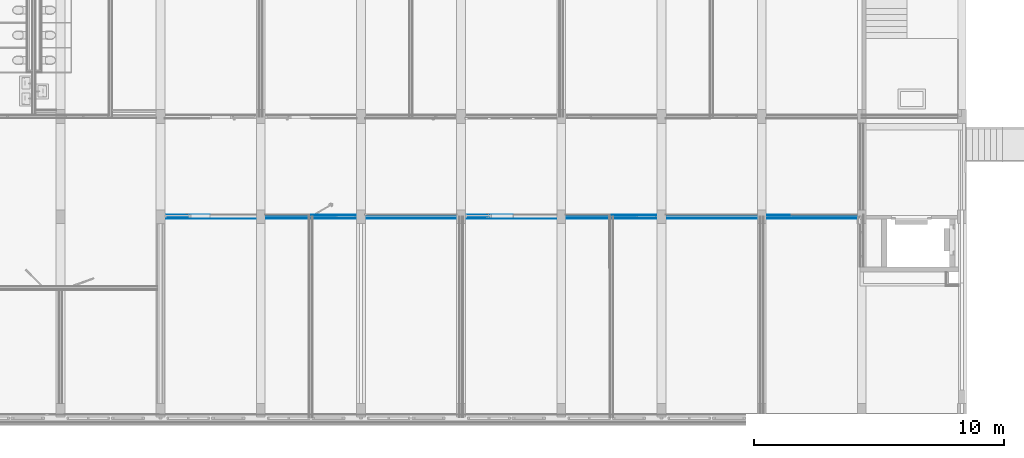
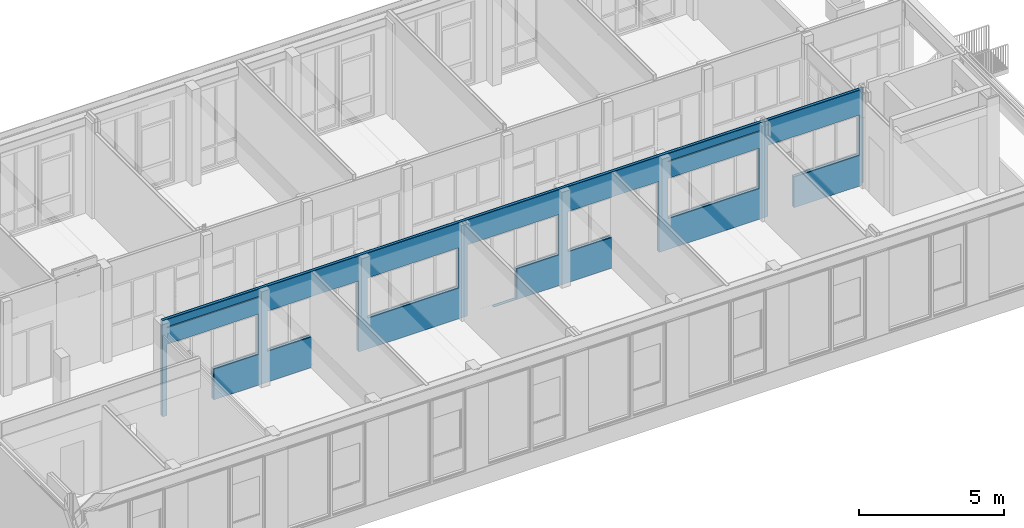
# One storey, part 31 of 54: 5 building element parts, 9 openings, 1 element without a shape of its own.
"""IFC2X3 building model written with IfcOpenShell, lengths in millimetres."""

from ifc_helpers import new_model, entity, si_unit, converted_unit, derived_unit, money_unit, direction, frame, origin_with_axes, place, context, subcontext, project, spatial, faceted_brep, material, type_object, element, aggregate, save


model = new_model("IFC2X3")

# Units and contexts
model_context = context("Model", 3, precision=0.01, world=origin_with_axes(), true_north=direction((0.0, 1.0)))
body_context = subcontext(model_context, "Body", "Model", "MODEL_VIEW")
ifc_project = project(units=[si_unit("LENGTHUNIT", "METRE", prefix="MILLI"), si_unit("AREAUNIT", "SQUARE_METRE"), si_unit("VOLUMEUNIT", "CUBIC_METRE"), converted_unit("PLANEANGLEUNIT", "DEGREE", entity("IfcPlaneAngleMeasure", 0.0174532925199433), si_unit("PLANEANGLEUNIT", "RADIAN"), dimensions=[0, 0, 0, 0, 0, 0, 0]), money_unit("EUR"), converted_unit("TIMEUNIT", "Year", entity("IfcTimeMeasure", 31557600.0), si_unit("TIMEUNIT", "SECOND"), dimensions=[0, 0, 1, 0, 0, 0, 0]), si_unit("MASSUNIT", "GRAM", prefix="KILO"), si_unit("THERMODYNAMICTEMPERATUREUNIT", "DEGREE_CELSIUS"), si_unit("LUMINOUSINTENSITYUNIT", "LUMEN"), si_unit("ENERGYUNIT", "JOULE", prefix="MEGA"), derived_unit("THERMALCONDUCTANCEUNIT", [(si_unit("POWERUNIT", "WATT"), 1), (si_unit("LENGTHUNIT", "METRE"), -1), (si_unit("THERMODYNAMICTEMPERATUREUNIT", "KELVIN"), -1)]), derived_unit("SPECIFICHEATCAPACITYUNIT", [(si_unit("ENERGYUNIT", "JOULE"), 1), (si_unit("MASSUNIT", "GRAM", prefix="KILO"), -1), (si_unit("THERMODYNAMICTEMPERATUREUNIT", "KELVIN"), -1)]), derived_unit("MASSDENSITYUNIT", [(si_unit("MASSUNIT", "GRAM", prefix="KILO"), 1), (si_unit("VOLUMEUNIT", "CUBIC_METRE"), -1)])], contexts=[model_context])

# Site, building, storey
site_placement = place(None, origin_with_axes())
site = spatial("IfcSite", under=ifc_project, at=site_placement, Name="<site naam>", CompositionType="ELEMENT")
building_placement = place(site_placement, origin_with_axes())
building = spatial("IfcBuilding", under=site, at=building_placement, Name="<Naam gebouw>", CompositionType="ELEMENT")
storey_placement = place(building_placement, frame((0.0, 0.0, 8500.0), z_axis=(0.0, 0.0, 1.0), x_axis=(1.0, 0.0, 0.0)))
storey = spatial("IfcBuildingStorey", under=building, at=storey_placement, Name="02 2e verdieping", CompositionType="ELEMENT", Elevation=8500.0)

# Wall, openings, building element parts
wall_type = type_object("IfcWallType", Name="MS-01 GF 150 ECO DGS/2.100.2.A 150", PredefinedType="NOTDEFINED")
wall_placement = place(storey_placement, frame((20000.00000000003, 8000.000000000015, 0.0), z_axis=(0.0, 0.0, 1.0), x_axis=(1.0, 0.0, 0.0)))
wall = element("IfcWall", 1, at=wall_placement, inside=storey, type_object=wall_type, Name="22_Binnenwand_MS-01")
opening_1_placement = place(wall_placement, frame((21999.96695173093, 0.0, 1300.000000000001), z_axis=(0.0, 0.0, 1.0), x_axis=(1.0, 0.0, 0.0)))
element("IfcOpeningElement", 2, at=opening_1_placement, cuts=wall, Name="22_BI-E-01_305", context=body_context, shape_type="Brep", body=[
    faceted_brep([(-1824.966951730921, -76.00000000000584, 1699.999999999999), (-1824.966951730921, -76.00000000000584, 0.0), (1824.966951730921, -76.00000000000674, 0.0), (1824.966951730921, -76.00000000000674, 1699.999999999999), (-1824.966951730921, 76.00000000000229, 1699.999999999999), (-1824.966951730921, 76.00000000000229, 0.0), (1824.966951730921, 76.00000000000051, 0.0), (1824.966951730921, 76.00000000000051, 1699.999999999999)], [[[0, 1, 2, 3]], [[4, 5, 1, 0]], [[5, 6, 2, 1]], [[6, 7, 3, 2]], [[7, 4, 0, 3]], [[6, 5, 4, 7]]]),
])
opening_2_placement = place(wall_placement, frame((2902.39464058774, 0.0, 1300.000000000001), z_axis=(0.0, 0.0, 1.0), x_axis=(1.0, 0.0, 0.0)))
element("IfcOpeningElement", 3, at=opening_2_placement, cuts=wall, Name="22_BI-E-01_305", context=body_context, shape_type="Brep", body=[
    faceted_brep([(-922.6053594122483, -76.00000000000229, 1699.999999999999), (-922.6053594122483, -76.00000000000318, 0.0), (922.6053594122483, -76.00000000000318, 0.0), (922.6053594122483, -76.00000000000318, 1699.999999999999), (-922.6053594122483, 76.00000000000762, 1699.999999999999), (-922.6053594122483, 76.00000000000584, 0.0), (922.6053594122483, 76.00000000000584, 0.0), (922.6053594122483, 76.00000000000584, 1699.999999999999)], [[[0, 1, 2, 3]], [[4, 5, 1, 0]], [[5, 6, 2, 1]], [[6, 7, 3, 2]], [[7, 4, 0, 3]], [[6, 5, 4, 7]]]),
])
opening_3_placement = place(wall_placement, frame((9999.966951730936, 0.0, 1300.000000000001), z_axis=(0.0, 0.0, 1.0), x_axis=(1.0, 0.0, 0.0)))
element("IfcOpeningElement", 4, at=opening_3_placement, cuts=wall, Name="22_BI-E-01_305", context=body_context, shape_type="Brep", body=[
    faceted_brep([(-1824.966951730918, -76.00000000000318, 1699.999999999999), (-1824.966951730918, -76.00000000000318, 0.0), (1824.966951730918, -76.00000000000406, 0.0), (1824.966951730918, -76.00000000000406, 1699.999999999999), (-1824.966951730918, 76.00000000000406, 1699.999999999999), (-1824.966951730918, 76.00000000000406, 0.0), (1824.966951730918, 76.00000000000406, 0.0), (1824.966951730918, 76.00000000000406, 1699.999999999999)], [[[0, 1, 2, 3]], [[4, 5, 1, 0]], [[5, 6, 2, 1]], [[6, 7, 3, 2]], [[7, 4, 0, 3]], [[6, 5, 4, 7]]]),
])
opening_4_placement = place(wall_placement, frame((13158.50000000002, 0.0, 3.000000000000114), z_axis=(0.0, 0.0, 1.0), x_axis=(1.0, 0.0, 0.0)))
element("IfcOpeningElement", 5, at=opening_4_placement, cuts=wall, Name="22_BI-E-02_305", context=body_context, shape_type="Brep", body=[
    faceted_brep([(-983.4999999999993, -76.00000000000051, 3000.0), (-983.4999999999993, -76.00000000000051, 0.0), (983.4999999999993, -76.00000000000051, 0.0), (983.4999999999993, -76.00000000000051, 3000.0), (-983.4999999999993, 75.99999999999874, 3000.0), (-983.4999999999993, 75.99999999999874, 0.0), (983.4999999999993, 75.99999999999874, 0.0), (983.4999999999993, 75.99999999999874, 3000.0)], [[[0, 1, 2, 3]], [[4, 5, 1, 0]], [[5, 6, 2, 1]], [[6, 7, 3, 2]], [[7, 4, 0, 3]], [[6, 5, 4, 7]]]),
])
opening_5_placement = place(wall_placement, frame((14953.39198492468, 0.0, 1300.000000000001), z_axis=(0.0, 0.0, 1.0), x_axis=(1.0, 0.0, 0.0)))
element("IfcOpeningElement", 6, at=opening_5_placement, cuts=wall, Name="22_BI-E-01_305", context=body_context, shape_type="Brep", body=[
    faceted_brep([(-871.6080150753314, -76.00000000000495, 1699.999999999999), (-871.6080150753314, -76.00000000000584, 0.0), (871.6080150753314, -76.00000000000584, 0.0), (871.6080150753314, -76.00000000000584, 1699.999999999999), (-871.6080150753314, 76.00000000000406, 1699.999999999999), (-871.6080150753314, 76.00000000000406, 0.0), (871.6080150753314, 76.00000000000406, 0.0), (871.6080150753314, 76.00000000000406, 1699.999999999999)], [[[0, 1, 2, 3]], [[4, 5, 1, 0]], [[5, 6, 2, 1]], [[6, 7, 3, 2]], [[7, 4, 0, 3]], [[6, 5, 4, 7]]]),
])
opening_6_placement = place(wall_placement, frame((18000.00000000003, 0.0, 0.0), z_axis=(0.0, 0.0, 1.0), x_axis=(1.0, 0.0, 0.0)))
element("IfcOpeningElement", 7, at=opening_6_placement, cuts=wall, Name="22_BI-E-03_305", context=body_context, shape_type="Brep", body=[
    faceted_brep([(-1825.000000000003, -76.00000000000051, 3000.0), (-1825.000000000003, -76.00000000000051, 1300.000000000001), (-58.86501235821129, -76.00000000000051, 1300.000000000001), (-58.86501235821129, -76.00000000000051, 0.0), (1825.000000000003, -76.00000000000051, 0.0), (1825.000000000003, -76.00000000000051, 3000.0), (-1825.000000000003, 75.99999999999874, 3000.0), (-1825.000000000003, 75.99999999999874, 1300.000000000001), (-58.86501235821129, 75.99999999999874, 1300.000000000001), (-58.86501235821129, 75.99999999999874, 0.0), (1825.000000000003, 75.99999999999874, 0.0), (1825.000000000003, 75.99999999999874, 3000.0)], [[[0, 1, 2, 3, 4, 5]], [[6, 7, 1, 0]], [[7, 8, 2, 1]], [[8, 9, 3, 2]], [[9, 10, 4, 3]], [[10, 11, 5, 4]], [[11, 6, 0, 5]], [[8, 7, 6, 11, 10, 9]]]),
])
opening_7_placement = place(wall_placement, frame((26000.00000000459, 0.0, 0.0), z_axis=(0.0, 0.0, 1.0), x_axis=(1.0, 0.0, 0.0)))
element("IfcOpeningElement", 8, at=opening_7_placement, cuts=wall, Name="22_BI-E-02_305", context=body_context, shape_type="Brep", body=[
    faceted_brep([(-1824.999999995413, -76.00000000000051, 3000.0), (-1824.999999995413, -76.00000000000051, 0.0), (-790.9999999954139, -76.00000000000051, 0.0), (-790.9999999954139, -76.00000000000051, 1300.000000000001), (1824.999999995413, -76.00000000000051, 1300.000000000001), (1824.999999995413, -76.00000000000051, 3000.0), (-1824.999999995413, 76.00000000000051, 3000.0), (-1824.999999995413, 76.00000000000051, 0.0), (-790.9999999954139, 76.00000000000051, 0.0), (-790.9999999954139, 76.00000000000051, 1300.000000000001), (1824.999999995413, 76.00000000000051, 1300.000000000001), (1824.999999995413, 76.00000000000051, 3000.0)], [[[0, 1, 2, 3, 4, 5]], [[6, 7, 1, 0]], [[7, 8, 2, 1]], [[8, 9, 3, 2]], [[9, 10, 4, 3]], [[10, 11, 5, 4]], [[11, 6, 0, 5]], [[8, 7, 6, 11, 10, 9]]]),
])
opening_8_placement = place(wall_placement, frame((6000.000000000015, 0.0, 0.0), z_axis=(0.0, 0.0, 1.0), x_axis=(1.0, 0.0, 0.0)))
element("IfcOpeningElement", 9, at=opening_8_placement, cuts=wall, Name="22_BI-E-03_305", context=body_context, shape_type="Brep", body=[
    faceted_brep([(-1825.000000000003, -76.00000000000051, 3000.0), (-1825.000000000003, -76.00000000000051, 1300.000000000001), (-58.86501235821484, -76.00000000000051, 1300.000000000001), (-58.86501235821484, -76.00000000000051, 0.0), (1825.000000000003, -76.00000000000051, 0.0), (1825.000000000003, -76.00000000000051, 3000.0), (-1825.000000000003, 75.99999999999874, 3000.0), (-1825.000000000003, 75.99999999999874, 1300.000000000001), (-58.86501235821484, 75.99999999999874, 1300.000000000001), (-58.86501235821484, 75.99999999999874, 0.0), (1825.000000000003, 75.99999999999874, 0.0), (1825.000000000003, 75.99999999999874, 3000.0)], [[[0, 1, 2, 3, 4, 5]], [[6, 7, 1, 0]], [[7, 8, 2, 1]], [[8, 9, 3, 2]], [[9, 10, 4, 3]], [[10, 11, 5, 4]], [[11, 6, 0, 5]], [[8, 7, 6, 11, 10, 9]]]),
])
opening_9_placement = place(wall_placement, frame((1108.500000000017, 0.0, 0.0), z_axis=(0.0, 0.0, 1.0), x_axis=(1.0, 0.0, 0.0)))
element("IfcOpeningElement", 10, at=opening_9_placement, cuts=wall, Name="22_BI-E-02_305", context=body_context, shape_type="Brep", body=[
    faceted_brep([(-933.4999999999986, -76.00000000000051, 3000.0), (-933.4999999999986, -76.00000000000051, 0.0), (933.4999999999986, -76.00000000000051, 0.0), (933.4999999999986, -76.00000000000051, 3000.0), (-933.4999999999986, 75.99999999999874, 3000.0), (-933.4999999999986, 75.99999999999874, 0.0), (933.4999999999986, 75.99999999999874, 0.0), (933.4999999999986, 75.99999999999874, 3000.0)], [[[0, 1, 2, 3]], [[4, 5, 1, 0]], [[5, 6, 2, 1]], [[6, 7, 3, 2]], [[7, 4, 0, 3]], [[6, 5, 4, 7]]]),
])
ifc_material_1 = material(Name="gipsplaat")
building_element_part_1_placement = place(wall_placement, origin_with_axes())
building_element_part_1 = element("IfcBuildingElementPart", 11, at=building_element_part_1_placement, material=ifc_material_1, Name="gipsplaat", context=body_context, shape_type="Brep", body=[
    faceted_brep([(0.0, 75.00000000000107, 4050.000014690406), (28062.50000000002, 75.00000000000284, 4050.000014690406), (28062.50000000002, 75.00000000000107, 0.0), (25208.99992023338, 74.99998205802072, 0.0), (25208.99992023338, 74.99998205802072, 3.000000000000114), (24175.00008003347, 74.99998205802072, 3.000000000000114), (24175.00008003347, 74.99998205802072, 0.0), (19042.13498766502, 74.99999045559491, 0.0), (19042.13498764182, 75.00000000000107, 3.000000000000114), (18992.13498764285, 75.00000000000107, 3.000000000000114), (18992.1310946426, 74.99999053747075, 0.0), (13209.00000000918, 74.99999999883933, 0.0), (13209.00000000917, 74.99999999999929, 3.000000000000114), (13159.00000000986, 74.99999999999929, 3.000000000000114), (13158.99999901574, 74.99999999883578, 0.0), (7042.134987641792, 74.99999999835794, 0.0), (7042.134987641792, 74.99999999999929, 3.000000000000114), (6992.134987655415, 74.99999999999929, 3.000000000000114), (6992.134978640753, 74.99999999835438, 0.0), (1159.046154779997, 74.99999999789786, 0.0), (1159.046152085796, 74.99999999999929, 3.000000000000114), (175.0000021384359, 74.99999999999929, 3.000000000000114), (175.0000021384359, 74.99999999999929, 0.0), (0.0, 74.99999999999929, 0.0), (3825.00000000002, 74.99999999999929, 3000.0), (3825.00000000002, 74.99999999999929, 3039.999999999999), (175.0000000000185, 74.99999999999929, 3039.999999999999), (175.0000000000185, 74.99999999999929, 3000.0), (7825.000000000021, 74.99999999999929, 3039.999999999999), (4175.000000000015, 74.99999999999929, 3039.999999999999), (4175.000000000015, 74.99999999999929, 3000.0), (7825.000000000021, 74.99999999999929, 3000.0), (8175.000000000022, 74.99999999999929, 3039.999999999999), (8175.000000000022, 74.99999999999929, 3000.0), (11825.00000000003, 74.99999999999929, 3000.0), (11825.00000000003, 74.99999999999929, 3039.999999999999), (12175.00000000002, 74.99999999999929, 3000.0), (15825.00000000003, 75.00000000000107, 3000.0), (15825.00000000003, 75.00000000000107, 3039.999999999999), (12175.00000000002, 74.99999999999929, 3039.999999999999), (19825.00000000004, 75.00000000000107, 3000.0), (19825.00000000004, 75.00000000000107, 3039.999999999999), (16175.00000000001, 75.00000000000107, 3039.999999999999), (16175.00000000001, 75.00000000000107, 3000.0), (23825.00000000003, 75.00000000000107, 3039.999999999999), (20175.00000000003, 75.00000000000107, 3039.999999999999), (20175.00000000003, 75.00000000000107, 3000.0), (23825.00000000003, 75.00000000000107, 3000.0), (28062.50000000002, 62.50000000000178, 4050.000014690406), (0.0, 62.5, 4050.000014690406), (28062.50000000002, 62.50000000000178, 0.0), (25208.99992023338, 62.50000000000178, 0.0), (25208.99992023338, 62.50000000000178, 3.000000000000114), (24175.00008003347, 62.50000000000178, 3.000000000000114), (24175.00008003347, 62.50000000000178, 0.0), (19042.16537079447, 62.50000000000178, 0.0), (19042.16537079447, 62.50000000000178, 3.000000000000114), (18074.97302601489, 62.50000000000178, 3.000000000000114), (18074.97302601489, 72.77069825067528, 3.000000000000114), (18074.97302601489, 72.77069825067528, 0.0), (18074.97302601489, 62.5, 0.0), (13209.01463624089, 62.5, 0.0), (13209.01463624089, 62.5, 3.000000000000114), (12174.99979133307, 62.5, 3.000000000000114), (12174.99979133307, 73.84783559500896, 3.000000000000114), (12174.99979133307, 73.84783559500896, 0.0), (12174.99979133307, 62.5, 0.0), (7042.137268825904, 62.5, 0.0), (7042.137268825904, 62.5, 3.000000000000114), (6073.749036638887, 74.83239940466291, 3.000000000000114), (6073.749036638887, 62.5, 3.000000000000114), (6073.749036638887, 74.83239940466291, 0.0), (1209.000024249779, 74.96102893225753, 0.0), (6073.749036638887, 62.5, 0.0), (1208.990296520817, 62.5, 0.0), (1209.000024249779, 74.96102893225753, 3.000000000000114), (1208.990296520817, 62.5, 3.000000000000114), (175.0000021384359, 62.5, 3.000000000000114), (175.0000021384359, 62.5, 0.0), (0.0, 62.5, 0.0), (3825.00000000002, 74.4359511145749, 3000.0), (3825.00000000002, 74.4359511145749, 3039.999999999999), (175.0000000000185, 74.4359511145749, 3039.999999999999), (175.0000000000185, 74.4359511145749, 3000.0), (7825.000000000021, 74.4359511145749, 3039.999999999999), (4175.000000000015, 74.4359511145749, 3039.999999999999), (4175.000000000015, 74.4359511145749, 3000.0), (7825.000000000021, 74.4359511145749, 3000.0), (8175.000000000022, 74.4359511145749, 3000.0), (8175.000000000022, 74.4359511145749, 3039.999999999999), (11825.00000000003, 74.4359511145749, 3000.0), (11825.00000000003, 74.4359511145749, 3039.999999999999), (12175.00000000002, 74.4359511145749, 3000.0), (15825.00000000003, 74.4359511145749, 3000.0), (15825.00000000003, 74.4359511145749, 3039.999999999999), (12175.00000000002, 74.4359511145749, 3039.999999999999), (19825.00000000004, 74.4359511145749, 3000.0), (19825.00000000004, 74.4359511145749, 3039.999999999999), (16175.00000000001, 74.4359511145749, 3039.999999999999), (16175.00000000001, 74.4359511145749, 3000.0), (23825.00000000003, 74.4359511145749, 3039.999999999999), (20175.00000000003, 74.4359511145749, 3039.999999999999), (20175.00000000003, 74.4359511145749, 3000.0), (23825.00000000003, 74.4359511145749, 3000.0)], [[[0, 1, 2, 3, 4, 5, 6, 7, 8, 9, 10, 11, 12, 13, 14, 15, 16, 17, 18, 19, 20, 21, 22, 23], [24, 25, 26, 27], [28, 29, 30, 31], [32, 33, 34, 35], [36, 37, 38, 39], [40, 41, 42, 43], [44, 45, 46, 47]], [[48, 1, 0, 49]], [[1, 48, 50, 2]], [[2, 50, 51, 3]], [[51, 52, 4, 3]], [[52, 53, 5, 4]], [[53, 54, 6, 5]], [[54, 55, 7, 6]], [[7, 55, 56, 8]], [[8, 56, 57, 58, 9]], [[59, 10, 9, 58]], [[10, 59, 60, 61, 11]], [[61, 62, 12, 11]], [[63, 64, 13, 12, 62]], [[14, 13, 64, 65]], [[14, 65, 66, 67, 15]], [[68, 16, 15, 67]], [[69, 17, 16, 68, 70]], [[17, 69, 71, 18]], [[72, 19, 18, 71, 73, 74]], [[20, 19, 72, 75]], [[76, 77, 21, 20, 75]], [[78, 22, 21, 77]], [[23, 22, 78, 79]], [[49, 0, 23, 79]], [[24, 80, 81, 25]], [[25, 81, 82, 26]], [[26, 82, 83, 27]], [[27, 83, 80, 24]], [[84, 85, 29, 28]], [[85, 86, 30, 29]], [[86, 87, 31, 30]], [[87, 84, 28, 31]], [[88, 33, 32, 89]], [[90, 34, 33, 88]], [[91, 35, 34, 90]], [[89, 32, 35, 91]], [[37, 36, 92, 93]], [[38, 37, 93, 94]], [[39, 38, 94, 95]], [[36, 39, 95, 92]], [[40, 96, 97, 41]], [[41, 97, 98, 42]], [[42, 98, 99, 43]], [[43, 99, 96, 40]], [[100, 101, 45, 44]], [[101, 102, 46, 45]], [[102, 103, 47, 46]], [[103, 100, 44, 47]], [[48, 49, 79, 78, 77, 76, 74, 73, 70, 68, 67, 66, 63, 62, 61, 60, 57, 56, 55, 54, 53, 52, 51, 50]], [[57, 60, 59, 58]], [[66, 65, 64, 63]], [[71, 69, 70, 73]], [[75, 72, 74, 76]], [[83, 82, 81, 80]], [[85, 84, 87, 86]], [[89, 91, 90, 88]], [[95, 94, 93, 92]], [[98, 97, 96, 99]], [[101, 100, 103, 102]]]),
])
ifc_material_2 = material(Name="isolatie_steenwol LSW")
building_element_part_2_placement = place(wall_placement, origin_with_axes())
building_element_part_2 = element("IfcBuildingElementPart", 12, at=building_element_part_2_placement, material=ifc_material_2, Name="isolatie_steenwol LSW", context=body_context, shape_type="Brep", body=[
    faceted_brep([(0.0, 50.00000000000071, 4050.000014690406), (27950.00000000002, 50.00000000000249, 4050.000014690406), (27950.00000000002, 50.00000000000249, 0.0), (25208.99992023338, 50.00000000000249, 0.0), (25208.99992023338, 50.00000000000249, 3.000000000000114), (24175.00008003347, 50.00000000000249, 3.000000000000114), (24175.00008003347, 50.00000000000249, 0.0), (19042.19575394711, 50.00000000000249, 0.0), (19042.19575394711, 50.00000000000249, 3.000000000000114), (18074.97302601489, 50.00000000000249, 3.000000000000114), (18074.97302601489, 50.00000000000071, 0.0), (13209.02927247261, 50.00000000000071, 0.0), (13209.02927247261, 50.00000000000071, 3.000000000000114), (12174.99979133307, 50.00000000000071, 3.000000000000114), (12174.99979133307, 50.00000000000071, 0.0), (7042.139550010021, 50.00000000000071, 0.0), (7042.139550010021, 50.00000000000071, 3.000000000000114), (6073.749036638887, 50.00000000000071, 3.000000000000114), (6073.749036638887, 50.00000000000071, 0.0), (1208.980538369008, 50.00000000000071, 0.0), (1208.980538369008, 50.00000000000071, 3.000000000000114), (175.0000021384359, 50.00000000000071, 3.000000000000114), (175.0000021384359, 50.00000000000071, 0.0), (0.0, 50.00000000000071, 0.0), (27950.00000000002, -49.99999999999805, 4050.000014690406), (0.0, -49.99999999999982, 4050.000014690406), (27950.00000000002, -49.99999999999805, 0.0), (25208.99992023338, -49.99999999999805, 0.0), (25208.99992023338, -49.99999999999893, 3.000000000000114), (24175.00008003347, -49.99999999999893, 3.000000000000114), (24175.00008003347, -49.99999999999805, 0.0), (19042.43881916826, -49.99999999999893, 0.0), (19042.43881916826, -49.99999999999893, 3.000000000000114), (18074.97302601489, -49.99999999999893, 3.000000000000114), (18074.97302601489, -49.99999999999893, 0.0), (13209.14636232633, -49.99999999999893, 0.0), (13209.14636232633, -49.99999999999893, 3.000000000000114), (12174.99979133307, -49.99999999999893, 3.000000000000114), (12174.99979133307, -49.99999999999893, 0.0), (7042.157799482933, -49.99999999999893, 0.0), (7042.157799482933, -49.99999999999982, 3.000000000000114), (6073.749036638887, -49.99999999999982, 3.000000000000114), (6073.749036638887, -49.99999999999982, 0.0), (1208.902473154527, -49.99999999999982, 0.0), (1208.902473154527, -49.99999999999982, 3.000000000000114), (175.0000021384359, -49.99999999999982, 3.000000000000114), (175.0000021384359, -49.99999999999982, 0.0), (0.0, -49.99999999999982, 0.0)], [[[0, 1, 2, 3, 4, 5, 6, 7, 8, 9, 10, 11, 12, 13, 14, 15, 16, 17, 18, 19, 20, 21, 22, 23]], [[24, 1, 0, 25]], [[1, 24, 26, 2]], [[26, 27, 3, 2]], [[28, 4, 3, 27]], [[29, 5, 4, 28]], [[30, 6, 5, 29]], [[30, 31, 7, 6]], [[7, 31, 32, 8]], [[8, 32, 33, 9]], [[34, 10, 9, 33]], [[11, 10, 34, 35]], [[11, 35, 36, 12]], [[12, 36, 37, 13]], [[38, 14, 13, 37]], [[38, 39, 15, 14]], [[15, 39, 40, 16]], [[16, 40, 41, 17]], [[42, 18, 17, 41]], [[19, 18, 42, 43]], [[44, 20, 19, 43]], [[45, 21, 20, 44]], [[46, 22, 21, 45]], [[23, 22, 46, 47]], [[25, 0, 23, 47]], [[24, 25, 47, 46, 45, 44, 43, 42, 41, 40, 39, 38, 37, 36, 35, 34, 33, 32, 31, 30, 29, 28, 27, 26]]]),
])
building_element_part_3_placement = place(wall_placement, origin_with_axes())
building_element_part_3 = element("IfcBuildingElementPart", 13, at=building_element_part_3_placement, material=ifc_material_1, Name="gipsplaat", context=body_context, shape_type="Brep", body=[
    faceted_brep([(0.0, 62.5, 4050.000014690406), (28050.00000000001, 62.50000000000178, 4050.000014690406), (28050.00000000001, 62.50000000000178, 0.0), (25208.99992023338, 62.50000000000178, 0.0), (25208.99992023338, 62.50000000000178, 3.000000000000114), (24175.00008003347, 62.50000000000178, 3.000000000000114), (24175.00008003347, 62.50000000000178, 0.0), (19042.16537079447, 62.50000000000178, 0.0), (19042.16537079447, 62.50000000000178, 3.000000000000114), (18074.97302601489, 62.50000000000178, 3.000000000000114), (18074.97302601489, 62.5, 0.0), (13209.01463624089, 62.5, 0.0), (13209.01463624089, 62.5, 3.000000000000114), (12174.99979133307, 62.5, 3.000000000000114), (12174.99979133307, 62.5, 0.0), (7042.137268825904, 62.5, 0.0), (7042.137268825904, 62.5, 3.000000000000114), (6073.749036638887, 62.5, 3.000000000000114), (6073.749036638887, 62.5, 0.0), (1208.990296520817, 62.5, 0.0), (1208.990296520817, 62.5, 3.000000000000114), (175.0000021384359, 62.5, 3.000000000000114), (175.0000021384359, 62.5, 0.0), (0.0, 62.5, 0.0), (28050.00000000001, 50.00000000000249, 4050.000014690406), (0.0, 50.00000000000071, 4050.000014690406), (28050.00000000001, 50.00000000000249, 0.0), (25208.99992023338, 50.00000000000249, 0.0), (25208.99992023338, 50.00000000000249, 3.000000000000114), (24175.00008003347, 50.00000000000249, 3.000000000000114), (24175.00008003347, 50.00000000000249, 0.0), (19042.19575394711, 50.00000000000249, 0.0), (19042.19575394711, 50.00000000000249, 3.000000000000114), (18074.97302601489, 50.00000000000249, 3.000000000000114), (18074.97302601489, 50.00000000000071, 0.0), (13209.02927247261, 50.00000000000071, 0.0), (13209.02927247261, 50.00000000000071, 3.000000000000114), (12174.99979133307, 50.00000000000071, 3.000000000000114), (12174.99979133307, 50.00000000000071, 0.0), (7042.139550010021, 50.00000000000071, 0.0), (7042.139550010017, 50.00000000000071, 3.000000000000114), (6073.749036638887, 50.00000000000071, 3.000000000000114), (6073.749036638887, 50.00000000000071, 0.0), (1208.980538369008, 50.00000000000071, 0.0), (1208.980538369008, 50.00000000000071, 3.000000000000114), (175.0000021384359, 50.00000000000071, 3.000000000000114), (175.0000021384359, 50.00000000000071, 0.0), (0.0, 50.00000000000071, 0.0)], [[[0, 1, 2, 3, 4, 5, 6, 7, 8, 9, 10, 11, 12, 13, 14, 15, 16, 17, 18, 19, 20, 21, 22, 23]], [[24, 1, 0, 25]], [[1, 24, 26, 2]], [[26, 27, 3, 2]], [[28, 4, 3, 27]], [[29, 5, 4, 28]], [[30, 6, 5, 29]], [[30, 31, 7, 6]], [[7, 31, 32, 8]], [[8, 32, 33, 9]], [[34, 10, 9, 33]], [[11, 10, 34, 35]], [[11, 35, 36, 12]], [[12, 36, 37, 13]], [[38, 14, 13, 37]], [[38, 39, 15, 14]], [[40, 16, 15, 39]], [[41, 17, 16, 40]], [[42, 18, 17, 41]], [[19, 18, 42, 43]], [[44, 20, 19, 43]], [[45, 21, 20, 44]], [[46, 22, 21, 45]], [[23, 22, 46, 47]], [[25, 0, 23, 47]], [[24, 25, 47, 46, 45, 44, 43, 42, 41, 40, 39, 38, 37, 36, 35, 34, 33, 32, 31, 30, 29, 28, 27, 26]]]),
])
building_element_part_4_placement = place(wall_placement, origin_with_axes())
building_element_part_4 = element("IfcBuildingElementPart", 14, at=building_element_part_4_placement, material=ifc_material_1, Name="gipsplaat", context=body_context, shape_type="Brep", body=[
    faceted_brep([(0.0, -49.99999999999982, 4050.000014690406), (27937.50000000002, -49.99999999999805, 4050.000014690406), (27937.50000000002, -49.99999999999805, 0.0), (25208.99992023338, -49.99999999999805, 0.0), (25208.99992023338, -49.99999999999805, 3.000000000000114), (24175.00008003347, -49.99999999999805, 3.000000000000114), (24175.00008003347, -49.99999999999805, 0.0), (19042.43881916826, -49.99999999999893, 0.0), (19042.43881916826, -49.99999999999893, 3.000000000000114), (18074.97302601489, -49.99999999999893, 3.000000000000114), (18074.97302601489, -49.99999999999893, 0.0), (13209.14636232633, -49.99999999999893, 0.0), (13209.14636232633, -49.99999999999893, 3.000000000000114), (12174.99979133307, -49.99999999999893, 3.000000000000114), (12174.99979133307, -49.99999999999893, 0.0), (7042.157799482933, -49.99999999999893, 0.0), (7042.157799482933, -49.99999999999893, 3.000000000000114), (6073.749036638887, -49.99999999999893, 3.000000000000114), (6073.749036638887, -49.99999999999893, 0.0), (1208.902473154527, -49.99999999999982, 0.0), (1208.902473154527, -49.99999999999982, 3.000000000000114), (175.0000021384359, -49.99999999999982, 3.000000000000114), (175.0000021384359, -49.99999999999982, 0.0), (0.0, -49.99999999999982, 0.0), (27937.50000000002, -62.49999999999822, 4050.000014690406), (0.0, -62.5, 4050.000014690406), (27937.50000000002, -62.49999999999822, 0.0), (25208.99992023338, -62.49999999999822, 0.0), (25208.99992023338, -62.49999999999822, 3.000000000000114), (24175.00008003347, -62.49999999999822, 3.000000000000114), (24175.00008003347, -62.49999999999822, 0.0), (19042.46920232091, -62.49999999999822, 0.0), (19042.46920232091, -62.49999999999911, 3.000000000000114), (18074.97302601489, -62.49999999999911, 3.000000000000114), (18074.97302601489, -62.49999999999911, 0.0), (13209.16099855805, -62.49999999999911, 0.0), (13209.16099855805, -62.5, 3.000000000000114), (12174.99979133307, -62.5, 3.000000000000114), (12174.99979133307, -62.49999999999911, 0.0), (7042.160080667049, -62.5, 0.0), (7042.160080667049, -62.5, 3.000000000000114), (6073.749036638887, -62.5, 3.000000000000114), (6073.749036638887, -62.5, 0.0), (1208.892715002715, -62.5, 0.0), (1208.892715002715, -62.5, 3.000000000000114), (175.0000021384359, -62.5, 3.000000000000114), (175.0000021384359, -62.5, 0.0), (0.0, -62.5, 0.0)], [[[0, 1, 2, 3, 4, 5, 6, 7, 8, 9, 10, 11, 12, 13, 14, 15, 16, 17, 18, 19, 20, 21, 22, 23]], [[24, 1, 0, 25]], [[1, 24, 26, 2]], [[26, 27, 3, 2]], [[28, 4, 3, 27]], [[29, 5, 4, 28]], [[30, 6, 5, 29]], [[30, 31, 7, 6]], [[7, 31, 32, 8]], [[8, 32, 33, 9]], [[34, 10, 9, 33]], [[11, 10, 34, 35]], [[11, 35, 36, 12]], [[12, 36, 37, 13]], [[38, 14, 13, 37]], [[38, 39, 15, 14]], [[40, 16, 15, 39]], [[41, 17, 16, 40]], [[42, 18, 17, 41]], [[19, 18, 42, 43]], [[44, 20, 19, 43]], [[45, 21, 20, 44]], [[46, 22, 21, 45]], [[23, 22, 46, 47]], [[25, 0, 23, 47]], [[24, 25, 47, 46, 45, 44, 43, 42, 41, 40, 39, 38, 37, 36, 35, 34, 33, 32, 31, 30, 29, 28, 27, 26]]]),
])
building_element_part_5_placement = place(wall_placement, origin_with_axes())
building_element_part_5 = element("IfcBuildingElementPart", 15, at=building_element_part_5_placement, material=ifc_material_1, Name="gipsplaat", context=body_context, shape_type="Brep", body=[
    faceted_brep([(0.0, -62.5, 4050.000014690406), (27925.00000000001, -62.49999999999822, 4050.000014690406), (27925.00000000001, -62.49999999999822, 0.0), (25208.99992023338, -62.49999999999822, 0.0), (25208.99992023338, -62.49999999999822, 3.000000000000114), (24175.00008003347, -62.49999999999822, 3.000000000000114), (24175.00008003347, -62.49999999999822, 0.0), (19042.46920232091, -62.49999999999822, 0.0), (19042.46920232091, -62.49999999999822, 3.000000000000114), (18074.97302601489, -62.49999999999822, 3.000000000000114), (18074.97302601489, -62.49999999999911, 0.0), (13209.16099855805, -62.49999999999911, 0.0), (13209.16099855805, -62.49999999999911, 3.000000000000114), (12174.99979133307, -62.49999999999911, 3.000000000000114), (12174.99979133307, -62.49999999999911, 0.0), (7042.160080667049, -62.5, 0.0), (7042.160080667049, -62.5, 3.000000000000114), (6073.749036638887, -62.5, 3.000000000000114), (6073.749036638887, -62.5, 0.0), (1208.892715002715, -62.5, 0.0), (1208.892715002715, -62.5, 3.000000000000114), (175.0000021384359, -62.5, 3.000000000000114), (175.0000021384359, -62.5, 0.0), (0.0, -62.5, 0.0), (175.0000000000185, -62.5, 3740.0), (175.0000000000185, -62.5, 3700.000000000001), (3824.999985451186, -62.5, 3700.000000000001), (3824.999985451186, -62.49999999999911, 3740.0), (20175.00009531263, -62.49999999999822, 3740.0), (20175.00009531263, -62.49999999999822, 3700.000000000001), (23825.00009531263, -62.49999999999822, 3700.000000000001), (23825.00009531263, -62.49999999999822, 3740.0), (27925.00000000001, -74.99999999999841, 4050.000014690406), (0.0, -75.00000000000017, 4050.000014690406), (27925.00000000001, -74.99999999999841, 0.0), (25208.99992023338, -74.99999999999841, 0.0), (25208.99992023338, -74.99999999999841, 3.000000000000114), (24175.00008003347, -74.99999999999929, 3.000000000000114), (24175.00008003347, -74.99999999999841, 0.0), (19042.49958739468, -75.00079037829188, 0.0), (19042.49958739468, -75.00079037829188, 3.000000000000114), (18074.97302601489, -74.99999999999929, 3.000000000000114), (18074.97302601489, -74.99999999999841, 0.0), (13209.17563478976, -74.99999999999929, 0.0), (13209.17563478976, -74.99999999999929, 3.000000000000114), (12174.99979133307, -74.99999999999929, 3.000000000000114), (12174.99979133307, -74.99999999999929, 0.0), (7042.162361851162, -74.99999999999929, 0.0), (7042.162361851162, -75.00000000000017, 3.000000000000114), (6073.749036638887, -75.00000000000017, 3.000000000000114), (6073.749036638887, -75.00000000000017, 0.0), (1208.882956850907, -75.00000000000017, 0.0), (1208.882956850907, -75.00000000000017, 3.000000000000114), (175.0000021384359, -75.00000000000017, 3.000000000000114), (175.0000021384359, -75.00000000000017, 0.0), (0.0, -75.00000000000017, 0.0), (175.0000000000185, -75.00000000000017, 3700.000000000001), (175.0000000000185, -75.00000000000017, 3740.0), (3824.999985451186, -75.00000000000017, 3700.000000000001), (3824.999985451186, -75.00000000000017, 3740.0), (20175.00009531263, -74.99999999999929, 3700.000000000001), (20175.00009531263, -74.99999999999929, 3740.0), (23825.00009531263, -74.99999999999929, 3700.000000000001), (23825.00009531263, -74.99999999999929, 3740.0)], [[[0, 1, 2, 3, 4, 5, 6, 7, 8, 9, 10, 11, 12, 13, 14, 15, 16, 17, 18, 19, 20, 21, 22, 23], [24, 25, 26, 27], [28, 29, 30, 31]], [[32, 1, 0, 33]], [[1, 32, 34, 2]], [[34, 35, 3, 2]], [[36, 4, 3, 35]], [[37, 5, 4, 36]], [[38, 6, 5, 37]], [[38, 39, 7, 6]], [[8, 7, 39, 40]], [[8, 40, 41, 9]], [[42, 10, 9, 41]], [[11, 10, 42, 43]], [[11, 43, 44, 12]], [[12, 44, 45, 13]], [[46, 14, 13, 45]], [[46, 47, 15, 14]], [[48, 16, 15, 47]], [[49, 17, 16, 48]], [[50, 18, 17, 49]], [[19, 18, 50, 51]], [[52, 20, 19, 51]], [[53, 21, 20, 52]], [[54, 22, 21, 53]], [[23, 22, 54, 55]], [[33, 0, 23, 55]], [[56, 25, 24, 57]], [[58, 26, 25, 56]], [[59, 27, 26, 58]], [[57, 24, 27, 59]], [[60, 29, 28, 61]], [[62, 30, 29, 60]], [[63, 31, 30, 62]], [[61, 28, 31, 63]], [[32, 33, 55, 54, 53, 52, 51, 50, 49, 48, 47, 46, 45, 44, 43, 42, 41, 40, 39, 38, 37, 36, 35, 34], [58, 56, 57, 59], [62, 60, 61, 63]]]),
])
aggregate(wall, [building_element_part_1, building_element_part_2, building_element_part_3, building_element_part_4, building_element_part_5])

save(model, "model.ifc")
